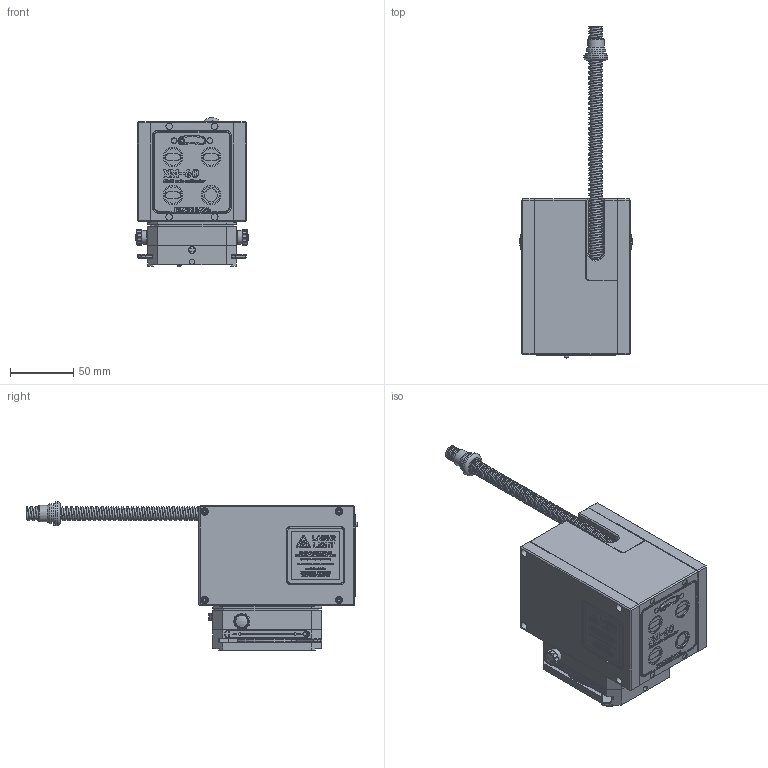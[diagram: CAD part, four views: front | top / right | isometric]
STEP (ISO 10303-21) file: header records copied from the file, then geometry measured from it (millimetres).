
FILE_DESCRIPTION(/* description */ (''),/* implementation_level */ '2;1');
FILE_NAME(/* name */ 'LA-5103-3800_A.stp',/* time_stamp */ '2017-06-27T15:13:54+01:00',/* author */ (''),/* organization */ (''),/* preprocessor_version */ 'ST-DEVELOPER v16',/* originating_system */ 'SIEMENS PLM Software NX 10.0',/* authorisation */ '');
FILE_SCHEMA (('AUTOMOTIVE_DESIGN { 1 0 10303 214 3 1 1 1 }'));
Products named in the file (1): LA-5103-3800-01_A
Bounding box: 89.04 x 261.91 x 117.08 mm (x, y, z)
Volume: 1046850.8 mm3; surface area: 84381.4 mm2
Topology: 1 solids, 13 shells, 1548 faces, 6414 edges, 5477 vertices
Faces by surface type: plane 912, cylinder 475, cone 94, bspline 41, torus 14, sphere 12
Full cylindrical faces by diameter (mm): 0.72 x8, 1.6 x2, 2.5 x2, 3 x2, 3.5 x3, 4 x2, 4.2 x1, 5.2 x4, 5.7 x7, 5.985 x1, 6 x8, 6.5 x2, 6.8 x1, 7.6 x1, 7.925 x2, 8 x2, 9.525 x2, 9.8 x2, 10 x1, 11 x2, 11.05 x1, 11.2 x1, 13 x5, 13.05 x1, 15 x4, 15.4 x4, 18.8 x1
Entity records: 91610 total; most frequent: CARTESIAN_POINT 31454, ORIENTED_EDGE 12240, DIRECTION 7869, EDGE_CURVE 6120, VERTEX_POINT 5261, LINE 3211, VECTOR 3211, AXIS2_PLACEMENT_3D 2329
